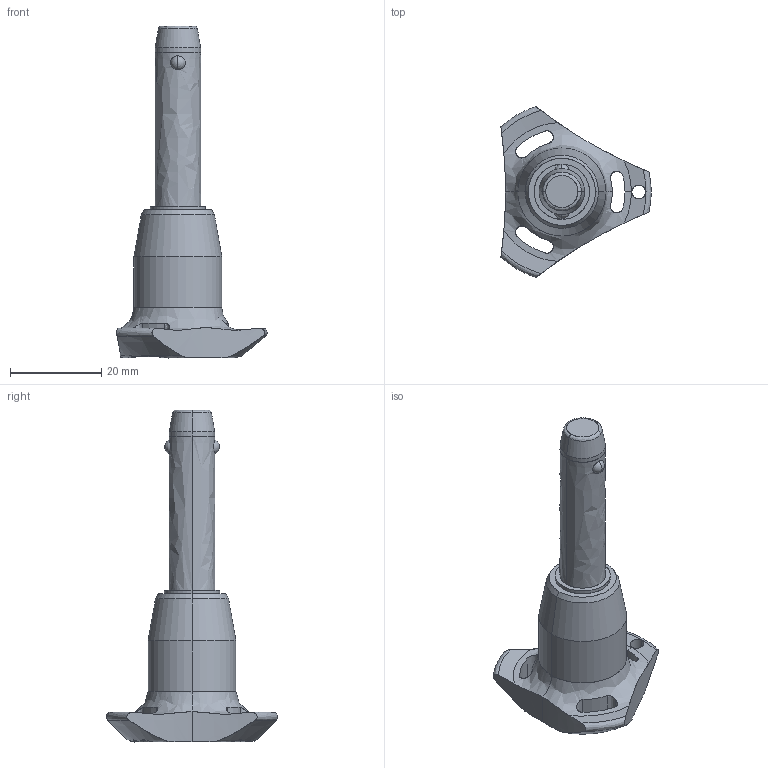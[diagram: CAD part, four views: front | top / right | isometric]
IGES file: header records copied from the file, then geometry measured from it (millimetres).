
Start section: SolidWorks IGES file using analytic representation for surfaces
Global section: file name: C:\Users\ianosborn\Desktop\QR1726_v2\QR1726_v2_20251115_IGES\QR1726.M10-030-T.igs; native system: SolidWorks 2019; preprocessor: SolidWorks 2019; author: IanOsborn; date: 251113.110926; units: millimetre
Bounding box: 33 x 37.51 x 72.9 mm (x, y, z)
Surface area: 5107.1 mm2 (no closed solid volume)
Topology: 0 solids, 0 shells, 68 faces, 1354 edges, 1350 vertices
Faces by surface type: revolution 52, bspline 16
